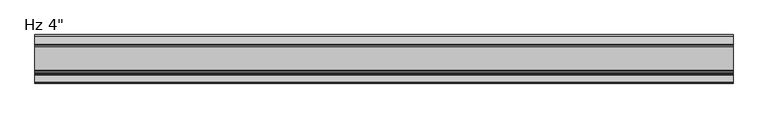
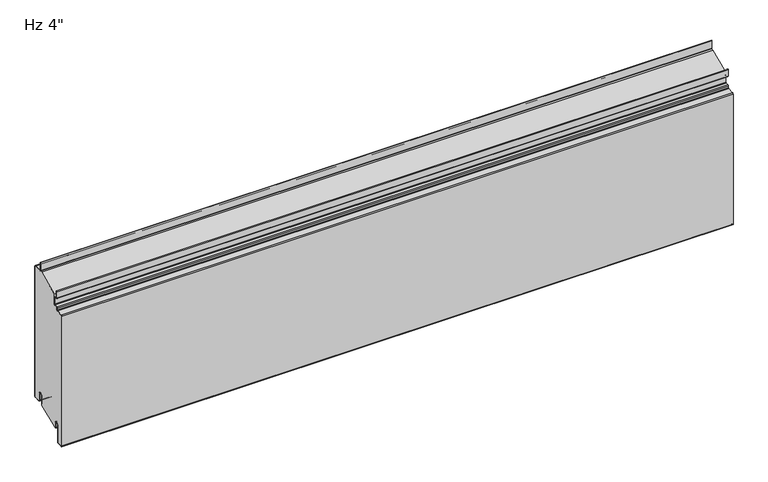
"""IFC4 building model written with IfcOpenShell, lengths in millimetres: plate geometry."""

from ifc_helpers import new_model, si_unit, point, frame, frame_2d, origin, place, context, project, spatial, polyline, circle_curve, ellipse_curve, trimmed, segment, composite_curve, outline, extrude, source, transform, mapped, element, save
from ifc_brep_helpers import plane_surface, cylinder_surface, revolved_surface, extruded_surface, advanced_brep


def plate_a1647500(model_context):
    return source(origin(), model_context, "Body", "SolidModel", [
        extrude(outline(composite_curve([segment(trimmed(circle_curve(frame_2d((-21.43125, 19.05)), 4.96875), [point((-16.4625, 19.05))], [point((-26.4, 19.05))], True, "CARTESIAN"), True, "CONTINUOUS"), segment(polyline([(-26.4, 19.05), (-26.4, -3.1323422), (-74.6157227, -23.01875), (-76.2, -23.01875), (-76.2, -13.5080174), (-76.99375, -13.5080174), (-76.7875, -11.9205174)]), True, "CONTINUOUS"), segment(trimmed(circle_curve(frame_2d((-81.75625, -11.9205174)), 4.96875), [point((-76.7875, -11.9205174))], [point((-86.725, -11.9205174))], True, "CARTESIAN"), True, "CONTINUOUS"), segment(polyline([(-86.725, -11.9205174), (-86.725, -50.1038221)]), True, "CONTINUOUS"), segment(trimmed(circle_curve(frame_2d((-88.10625, -50.1038221)), 1.38125), [point((-86.725, -50.1038221))], [point((-88.033961, -51.4831791))], False, "CARTESIAN"), True, "CONTINUOUS"), segment(polyline([(-88.033961, -51.4831791), (-99.146461, -52.0655606)]), True, "CONTINUOUS"), segment(trimmed(circle_curve(frame_2d((-99.21875, -50.6862035)), 1.38125), [point((-99.146461, -52.0655606))], [point((-100.6, -50.6862035))], False, "CARTESIAN"), True, "CONTINUOUS"), segment(polyline([(-100.6, -50.6862035), (-100.6, 247.7572607)]), True, "CONTINUOUS"), segment(trimmed(circle_curve(frame_2d((-99.21875, 247.7572607)), 1.38125), [point((-100.6, 247.7572607))], [point((-99.291039, 249.1366177))], False, "CARTESIAN"), True, "CONTINUOUS"), segment(polyline([(-99.291039, 249.1366177), (-85.5895807, 249.8546807)]), True, "CONTINUOUS"), segment(trimmed(circle_curve(frame_2d((-85.725, 252.4386347)), 2.5875), [point((-85.5895807, 249.8546807))], [point((-83.1375, 252.4386347))], True, "CARTESIAN"), True, "CONTINUOUS"), segment(polyline([(-83.1375, 252.4386347), (-83.1375, 255.4824411)]), True, "CONTINUOUS"), segment(trimmed(circle_curve(frame_2d((-81.75625, 255.4824411)), 1.38125), [point((-83.1375, 255.4824411))], [point((-81.828539, 256.8617981))], False, "CARTESIAN"), True, "CONTINUOUS"), segment(polyline([(-81.828539, 256.8617981), (-76.0645807, 257.1638744)]), True, "CONTINUOUS"), segment(trimmed(circle_curve(frame_2d((-76.2, 259.7478283)), 2.5875), [point((-76.0645807, 257.1638744))], [point((-73.6125, 259.7478283))], True, "CARTESIAN"), True, "CONTINUOUS"), segment(polyline([(-73.6125, 259.7478283), (-73.6125, 282.1892934), (-24.9057308, 303.00625), (-2.38125, 303.00625)]), True, "CONTINUOUS"), segment(trimmed(circle_curve(frame_2d((-2.38125, 301.625)), 1.38125), [point((-2.38125, 303.00625))], [point((-1.0, 301.625))], False, "CARTESIAN"), True, "CONTINUOUS"), segment(polyline([(-1.0, 301.625), (-1.0, 3.175)]), True, "CONTINUOUS"), segment(trimmed(circle_curve(frame_2d((-2.38125, 3.175)), 1.38125), [point((-1.0, 3.175))], [point((-2.38125, 1.79375))], False, "CARTESIAN"), True, "CONTINUOUS"), segment(polyline([(-2.38125, 1.79375), (-15.08125, 1.79375)]), True, "CONTINUOUS"), segment(trimmed(circle_curve(frame_2d((-15.08125, 3.175)), 1.38125), [point((-15.08125, 1.79375))], [point((-16.4625, 3.175))], False, "CARTESIAN"), True, "CONTINUOUS"), segment(polyline([(-16.4625, 3.175), (-16.4625, 19.05)]), True, "CONTINUOUS")], self_intersect=False)), frame((-730.0, 0.0, 0.0), z_axis=(1.0, 0.0, 0.0), x_axis=(0.0, 1.0, 0.0)), (0.0, 0.0, 1.0), 1460.0),
        extrude(outline(composite_curve([segment(polyline([(-25.4, 0.79375), (-26.4, 0.79375), (-26.4, 19.05)]), True, "CONTINUOUS"), segment(trimmed(circle_curve(frame_2d((-21.43125, 19.05)), 4.96875), [point((-26.4, 19.05))], [point((-16.4625, 19.05))], False, "CARTESIAN"), True, "CONTINUOUS"), segment(polyline([(-16.4625, 19.05), (-16.4625, 3.175)]), True, "CONTINUOUS"), segment(trimmed(circle_curve(frame_2d((-15.08125, 3.175)), 1.38125), [point((-16.4625, 3.175))], [point((-15.08125, 1.79375))], True, "CARTESIAN"), True, "CONTINUOUS"), segment(polyline([(-15.08125, 1.79375), (-2.38125, 1.79375)]), True, "CONTINUOUS"), segment(trimmed(circle_curve(frame_2d((-2.38125, 3.175)), 1.38125), [point((-2.38125, 1.79375))], [point((-1.0, 3.175))], True, "CARTESIAN"), True, "CONTINUOUS"), segment(polyline([(-1.0, 3.175), (-1.0, 301.625)]), True, "CONTINUOUS"), segment(trimmed(circle_curve(frame_2d((-2.38125, 301.625)), 1.38125), [point((-1.0, 301.625))], [point((-2.38125, 303.00625))], True, "CARTESIAN"), True, "CONTINUOUS"), segment(polyline([(-2.38125, 303.00625), (-19.446875, 303.00625)]), True, "CONTINUOUS"), segment(trimmed(circle_curve(frame_2d((-19.446875, 305.59375)), 2.5875), [point((-19.446875, 303.00625))], [point((-22.034375, 305.59375))], False, "CARTESIAN"), True, "CONTINUOUS"), segment(polyline([(-22.034375, 305.59375), (-22.034375, 323.05625), (-21.034375, 323.05625), (-21.034375, 305.59375)]), True, "CONTINUOUS"), segment(trimmed(circle_curve(frame_2d((-19.446875, 305.59375)), 1.5875), [point((-21.034375, 305.59375))], [point((-19.446875, 304.00625))], True, "CARTESIAN"), True, "CONTINUOUS"), segment(polyline([(-19.446875, 304.00625), (-2.38125, 304.00625)]), True, "CONTINUOUS"), segment(trimmed(circle_curve(frame_2d((-2.38125, 301.625)), 2.38125), [point((-2.38125, 304.00625))], [point((0.0, 301.625))], False, "CARTESIAN"), True, "CONTINUOUS"), segment(polyline([(0.0, 301.625), (0.0, 3.175)]), True, "CONTINUOUS"), segment(trimmed(circle_curve(frame_2d((-2.38125, 3.175)), 2.38125), [point((0.0, 3.175))], [point((-2.38125, 0.79375))], False, "CARTESIAN"), True, "CONTINUOUS"), segment(polyline([(-2.38125, 0.79375), (-15.08125, 0.79375)]), True, "CONTINUOUS"), segment(trimmed(circle_curve(frame_2d((-15.08125, 3.175)), 2.38125), [point((-15.08125, 0.79375))], [point((-17.4625, 3.175))], False, "CARTESIAN"), True, "CONTINUOUS"), segment(polyline([(-17.4625, 3.175), (-17.4625, 19.05)]), True, "CONTINUOUS"), segment(trimmed(circle_curve(frame_2d((-21.43125, 19.05)), 3.96875), [point((-17.4625, 19.05))], [point((-25.4, 19.05))], True, "CARTESIAN"), True, "CONTINUOUS"), segment(polyline([(-25.4, 19.05), (-25.4, 0.79375)]), True, "CONTINUOUS")], self_intersect=False)), frame((-730.0, 0.0, 0.0), z_axis=(1.0, 0.0, 0.0), x_axis=(0.0, 1.0, 0.0)), (0.0, 0.0, 1.0), 1460.0),
        advanced_brep(
        [(-730.0, -76.2, -23.2314549), (-730.0, -77.7875, -23.2314549), (-730.0, -77.7875, -11.9205174), (-730.0, -85.725, -11.9205174), (-730.0, -85.725, -50.1038221), (-730.0, -87.981625, -52.4818086), (-730.0, -99.094125, -53.0641901), (-730.0, -101.6, -50.6862035), (-730.0, -101.6, 247.7572607), (-730.0, -99.343375, 250.1352473), (-730.0, -85.6419167, 250.8533103), (-730.0, -84.1375, 252.4386347), (-730.0, -84.1375, 255.4824411), (-730.0, -81.880875, 257.8604276), (-730.0, -76.1169167, 258.1625039), (-730.0, -74.6125, 259.7478283), (-730.0, -74.6125, 274.6232326), (-730.0, -76.2, 276.2107326), (-730.0, -80.3671875, 276.2107326), (-730.0, -82.7484375, 278.5919826), (-730.0, -82.7484375, 293.0836032), (-730.0, -80.9546875, 293.0836032), (-730.0, -80.9546875, 283.3544826), (-730.0, -81.7484375, 283.3544826), (-730.0, -81.7484375, 278.5919826), (-730.0, -80.3671875, 277.2107326), (-730.0, -76.2, 277.2107326), (-730.0, -73.6125, 274.6232326), (-730.0, -73.6125, 259.7478283), (-730.0, -76.0645807, 257.1638744), (-730.0, -81.828539, 256.8617981), (-730.0, -83.1375, 255.4824411), (-730.0, -83.1375, 252.4386347), (-730.0, -85.5895807, 249.8546807), (-730.0, -99.291039, 249.1366177), (-730.0, -100.6, 247.7572607), (-730.0, -100.6, -50.6862035), (-730.0, -99.146461, -52.0655606), (-730.0, -88.033961, -51.4831791), (-730.0, -86.725, -50.1038221), (-730.0, -86.725, -11.9205174), (-730.0, -76.7875, -11.9205174), (-730.0, -76.99375, -13.5080174), (-730.0, -76.2, -13.5080174), (730.0, -76.2, -23.2314549), (730.0, -76.2, -13.5080174), (730.0, -76.99375, -13.5080174), (730.0, -76.7875, -11.9205174), (730.0, -86.725, -11.9205174), (730.0, -86.725, -50.1038221), (730.0, -88.033961, -51.4831791), (730.0, -99.146461, -52.0655606), (730.0, -100.6, -50.6862035), (730.0, -100.6, 247.7572607), (730.0, -99.291039, 249.1366177), (730.0, -85.5895807, 249.8546807), (730.0, -83.1375, 252.4386347), (730.0, -83.1375, 255.4824411), (730.0, -81.828539, 256.8617981), (730.0, -76.0645807, 257.1638744), (730.0, -73.6125, 259.7478283), (730.0, -73.6125, 274.6232326), (730.0, -76.2, 277.2107326), (730.0, -80.3671875, 277.2107326), (730.0, -81.7484375, 278.5919826), (730.0, -81.7484375, 283.3544826), (730.0, -80.9546875, 283.3544826), (730.0, -80.9546875, 293.0836032), (730.0, -82.7484375, 293.0836032), (730.0, -82.7484375, 278.5919826), (730.0, -80.3671875, 276.2107326), (730.0, -76.2, 276.2107326), (730.0, -74.6125, 274.6232326), (730.0, -74.6125, 259.7478283), (730.0, -76.1169167, 258.1625039), (730.0, -81.880875, 257.8604276), (730.0, -84.1375, 255.4824411), (730.0, -84.1375, 252.4386347), (730.0, -85.6419167, 250.8533103), (730.0, -99.343375, 250.1352473), (730.0, -101.6, 247.7572607), (730.0, -101.6, -50.6862035), (730.0, -99.094125, -53.0641901), (730.0, -87.981625, -52.4818086), (730.0, -85.725, -50.1038221), (730.0, -85.725, -11.9205174), (730.0, -77.7875, -11.9205174), (730.0, -77.7875, -23.2314549)],
        [
            (0, 1, circle_curve(frame((-730.0, -76.99375, -23.2314549), z_axis=(-1.0, 0.0, 0.0), x_axis=(0.0, 0.0, -1.0)), 0.79375)),
            (1, 2),
            (2, 3, circle_curve(frame((-730.0, -81.75625, -11.9205174), z_axis=(1.0, 0.0, 0.0), x_axis=(0.0, 0.0, -1.0)), 3.96875)),
            (3, 4),
            (4, 5, circle_curve(frame((-730.0, -88.10625, -50.1038221), z_axis=(-1.0, 0.0, 0.0), x_axis=(0.0, 0.0, -1.0)), 2.38125)),
            (5, 6),
            (6, 7, circle_curve(frame((-730.0, -99.21875, -50.6862035), z_axis=(-1.0, 0.0, 0.0), x_axis=(0.0, 0.0, -1.0)), 2.38125)),
            (7, 8),
            (8, 9, circle_curve(frame((-730.0, -99.21875, 247.7572607), z_axis=(-1.0, 0.0, 0.0), x_axis=(0.0, 0.0, -1.0)), 2.38125)),
            (9, 10),
            (10, 11, circle_curve(frame((-730.0, -85.725, 252.4386347), z_axis=(1.0, 0.0, 0.0), x_axis=(0.0, 0.0, -1.0)), 1.5875)),
            (11, 12),
            (12, 13, circle_curve(frame((-730.0, -81.75625, 255.4824411), z_axis=(-1.0, 0.0, 0.0), x_axis=(0.0, 0.0, -1.0)), 2.38125)),
            (13, 14),
            (14, 15, circle_curve(frame((-730.0, -76.2, 259.7478283), z_axis=(1.0, 0.0, 0.0), x_axis=(0.0, 0.0, -1.0)), 1.5875)),
            (15, 16),
            (16, 17, circle_curve(frame((-730.0, -76.2, 274.6232326), z_axis=(1.0, 0.0, 0.0), x_axis=(0.0, 0.0, -1.0)), 1.5875)),
            (17, 18),
            (18, 19, circle_curve(frame((-730.0, -80.3671875, 278.5919826), z_axis=(-1.0, 0.0, 0.0), x_axis=(0.0, 0.0, -1.0)), 2.38125)),
            (19, 20),
            (20, 21, ellipse_curve(frame((-730.0, -81.8515625, 293.0836032), z_axis=(-1.0, 0.0, 0.0), x_axis=(0.0, 1.0, 0.0)), 0.896875, 0.7852275)),
            (21, 22),
            (22, 23),
            (23, 24),
            (24, 25, circle_curve(frame((-730.0, -80.3671875, 278.5919826), z_axis=(1.0, 0.0, 0.0), x_axis=(0.0, 0.0, -1.0)), 1.38125)),
            (25, 26),
            (26, 27, circle_curve(frame((-730.0, -76.2, 274.6232326), z_axis=(-1.0, 0.0, 0.0), x_axis=(0.0, 0.0, -1.0)), 2.5875)),
            (27, 28),
            (28, 29, circle_curve(frame((-730.0, -76.2, 259.7478283), z_axis=(-1.0, 0.0, 0.0), x_axis=(0.0, 0.0, -1.0)), 2.5875)),
            (29, 30),
            (30, 31, circle_curve(frame((-730.0, -81.75625, 255.4824411), z_axis=(1.0, 0.0, 0.0), x_axis=(0.0, 0.0, -1.0)), 1.38125)),
            (31, 32),
            (32, 33, circle_curve(frame((-730.0, -85.725, 252.4386347), z_axis=(-1.0, 0.0, 0.0), x_axis=(0.0, 0.0, -1.0)), 2.5875)),
            (33, 34),
            (34, 35, circle_curve(frame((-730.0, -99.21875, 247.7572607), z_axis=(1.0, 0.0, 0.0), x_axis=(0.0, 0.0, -1.0)), 1.38125)),
            (35, 36),
            (36, 37, circle_curve(frame((-730.0, -99.21875, -50.6862035), z_axis=(1.0, 0.0, 0.0), x_axis=(0.0, 0.0, -1.0)), 1.38125)),
            (37, 38),
            (38, 39, circle_curve(frame((-730.0, -88.10625, -50.1038221), z_axis=(1.0, 0.0, 0.0), x_axis=(0.0, 0.0, -1.0)), 1.38125)),
            (39, 40),
            (40, 41, circle_curve(frame((-730.0, -81.75625, -11.9205174), z_axis=(-1.0, 0.0, 0.0), x_axis=(0.0, 0.0, -1.0)), 4.96875)),
            (41, 42),
            (42, 43),
            (43, 0),
            (44, 45),
            (45, 46),
            (46, 47),
            (47, 48, circle_curve(frame((730.0, -81.75625, -11.9205174), z_axis=(1.0, 0.0, 0.0), x_axis=(0.0, 0.0, -1.0)), 4.96875)),
            (48, 49),
            (49, 50, circle_curve(frame((730.0, -88.10625, -50.1038221), z_axis=(-1.0, 0.0, 0.0), x_axis=(0.0, 0.0, -1.0)), 1.38125)),
            (50, 51),
            (51, 52, circle_curve(frame((730.0, -99.21875, -50.6862035), z_axis=(-1.0, 0.0, 0.0), x_axis=(0.0, 0.0, -1.0)), 1.38125)),
            (52, 53),
            (53, 54, circle_curve(frame((730.0, -99.21875, 247.7572607), z_axis=(-1.0, 0.0, 0.0), x_axis=(0.0, 0.0, -1.0)), 1.38125)),
            (54, 55),
            (55, 56, circle_curve(frame((730.0, -85.725, 252.4386347), z_axis=(1.0, 0.0, 0.0), x_axis=(0.0, 0.0, -1.0)), 2.5875)),
            (56, 57),
            (57, 58, circle_curve(frame((730.0, -81.75625, 255.4824411), z_axis=(-1.0, 0.0, 0.0), x_axis=(0.0, 0.0, -1.0)), 1.38125)),
            (58, 59),
            (59, 60, circle_curve(frame((730.0, -76.2, 259.7478283), z_axis=(1.0, 0.0, 0.0), x_axis=(0.0, 0.0, -1.0)), 2.5875)),
            (60, 61),
            (61, 62, circle_curve(frame((730.0, -76.2, 274.6232326), z_axis=(1.0, 0.0, 0.0), x_axis=(0.0, 0.0, -1.0)), 2.5875)),
            (62, 63),
            (63, 64, circle_curve(frame((730.0, -80.3671875, 278.5919826), z_axis=(-1.0, 0.0, 0.0), x_axis=(0.0, 0.0, -1.0)), 1.38125)),
            (64, 65),
            (65, 66),
            (66, 67),
            (67, 68, ellipse_curve(frame((730.0, -81.8515625, 293.0836032), z_axis=(1.0, 0.0, 0.0), x_axis=(0.0, 1.0, 0.0)), 0.896875, 0.7852275)),
            (68, 69),
            (69, 70, circle_curve(frame((730.0, -80.3671875, 278.5919826), z_axis=(1.0, 0.0, 0.0), x_axis=(0.0, 0.0, -1.0)), 2.38125)),
            (70, 71),
            (71, 72, circle_curve(frame((730.0, -76.2, 274.6232326), z_axis=(-1.0, 0.0, 0.0), x_axis=(0.0, 0.0, -1.0)), 1.5875)),
            (72, 73),
            (73, 74, circle_curve(frame((730.0, -76.2, 259.7478283), z_axis=(-1.0, 0.0, 0.0), x_axis=(0.0, 0.0, -1.0)), 1.5875)),
            (74, 75),
            (75, 76, circle_curve(frame((730.0, -81.75625, 255.4824411), z_axis=(1.0, 0.0, 0.0), x_axis=(0.0, 0.0, -1.0)), 2.38125)),
            (76, 77),
            (77, 78, circle_curve(frame((730.0, -85.725, 252.4386347), z_axis=(-1.0, 0.0, 0.0), x_axis=(0.0, 0.0, -1.0)), 1.5875)),
            (78, 79),
            (79, 80, circle_curve(frame((730.0, -99.21875, 247.7572607), z_axis=(1.0, 0.0, 0.0), x_axis=(0.0, 0.0, -1.0)), 2.38125)),
            (80, 81),
            (81, 82, circle_curve(frame((730.0, -99.21875, -50.6862035), z_axis=(1.0, 0.0, 0.0), x_axis=(0.0, 0.0, -1.0)), 2.38125)),
            (82, 83),
            (83, 84, circle_curve(frame((730.0, -88.10625, -50.1038221), z_axis=(1.0, 0.0, 0.0), x_axis=(0.0, 0.0, -1.0)), 2.38125)),
            (84, 85),
            (85, 86, circle_curve(frame((730.0, -81.75625, -11.9205174), z_axis=(-1.0, 0.0, 0.0), x_axis=(0.0, 0.0, -1.0)), 3.96875)),
            (86, 87),
            (87, 44, circle_curve(frame((730.0, -76.99375, -23.2314549), z_axis=(1.0, 0.0, 0.0), x_axis=(0.0, 0.0, -1.0)), 0.79375)),
            (36, 52),
            (51, 37),
            (50, 38),
            (49, 39),
            (48, 40),
            (47, 41),
            (42, 46),
            (45, 43),
            (22, 66),
            (65, 23),
            (21, 67),
            (20, 68),
            (34, 54),
            (53, 35),
            (32, 56),
            (55, 33),
            (30, 58),
            (57, 31),
            (28, 60),
            (59, 29),
            (24, 64),
            (63, 25),
            (26, 62),
            (61, 27),
            (19, 69),
            (17, 71),
            (70, 18),
            (15, 73),
            (72, 16),
            (13, 75),
            (74, 14),
            (11, 77),
            (76, 12),
            (9, 79),
            (78, 10),
            (7, 81),
            (80, 8),
            (5, 83),
            (82, 6),
            (3, 85),
            (84, 4),
            (1, 87),
            (86, 2),
            (44, 0),
        ],
        [
            plane_surface(frame((-730.0, -101.6, 152.4), z_axis=(-1.0, 0.0, 0.0), x_axis=(0.0, -1.0, 0.0))),
            plane_surface(frame((730.0, -101.6, 152.4), z_axis=(1.0, 0.0, 0.0), x_axis=(0.0, -1.0, 0.0))),
            revolved_surface(polyline([(730.0, -99.21875, -52.0674535), (-730.0, -99.21875, -52.0674535)]), (-730.0, -99.21875, -50.6862035), (1.0, 0.0, 0.0)),
            plane_surface(frame((-730.0, -88.033961, -51.4831791), z_axis=(0.0, -0.05233595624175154, 0.9986295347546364), x_axis=(1.0, 0.0, 0.0))),
            revolved_surface(polyline([(730.0, -88.10625, -51.485072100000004), (-730.0, -88.10625, -51.485072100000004)]), (-730.0, -88.10625, -50.1038221), (1.0, 0.0, 0.0)),
            plane_surface(frame((-730.0, -86.725, -11.9205174), z_axis=(0.0, -1.0, 0.0), x_axis=(1.0, 0.0, 0.0))),
            cylinder_surface(frame((-730.0, -81.75625, -11.9205174), z_axis=(-1.0, 0.0, 0.0), x_axis=(0.0, 0.0, -1.0)), 4.96875),
            plane_surface(frame((-730.0, -76.2, -13.5080174), z_axis=(0.0, 0.0, 1.0), x_axis=(1.0, 0.0, 0.0))),
            plane_surface(frame((-730.0, -76.99375, -13.5080174), z_axis=(0.0, 0.9916655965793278, -0.12883844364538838), x_axis=(1.0, 0.0, 0.0))),
            plane_surface(frame((-730.0, -81.7484375, 283.3544826), z_axis=(0.0, 0.0, -1.0), x_axis=(1.0, 0.0, 0.0))),
            plane_surface(frame((-730.0, -80.9546875, 283.3544826), z_axis=(0.0, 1.0, 0.0), x_axis=(1.0, 0.0, 0.0))),
            extruded_surface(trimmed(ellipse_curve(frame((-730.0, -81.8515625, 293.0836032), z_axis=(1.0, 0.0, 0.0), x_axis=(0.0, 1.0, 0.0)), 0.896875, 0.7852275), [point((-730.0, -80.9546875, 293.0836032))], [point((-730.0, -82.7484375, 293.0836032))], True, "CARTESIAN"), (1460.0, 0.0, 0.0), 1460.0),
            revolved_surface(polyline([(730.0, -99.21875, 246.3760107), (-730.0, -99.21875, 246.3760107)]), (-730.0, -99.21875, 247.7572607), (1.0, 0.0, 0.0)),
            cylinder_surface(frame((-730.0, -85.725, 252.4386347), z_axis=(-1.0, 0.0, 0.0), x_axis=(0.0, 0.0, -1.0)), 2.5875),
            plane_surface(frame((-730.0, -99.291039, 249.1366177), z_axis=(0.0, 0.05233595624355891, -0.9986295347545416), x_axis=(1.0, 0.0, 0.0))),
            plane_surface(frame((-730.0, -100.6, -50.6862035), z_axis=(0.0, 1.0, 0.0), x_axis=(1.0, 0.0, 0.0))),
            revolved_surface(polyline([(730.0, -81.75625, 254.1011911), (-730.0, -81.75625, 254.1011911)]), (-730.0, -81.75625, 255.4824411), (1.0, 0.0, 0.0)),
            cylinder_surface(frame((-730.0, -76.2, 259.7478283), z_axis=(-1.0, 0.0, 0.0), x_axis=(0.0, 0.0, -1.0)), 2.5875),
            plane_surface(frame((-730.0, -81.828539, 256.8617981), z_axis=(0.0, 0.052335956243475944, -0.9986295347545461), x_axis=(1.0, 0.0, 0.0))),
            plane_surface(frame((-730.0, -83.1375, 252.4386347), z_axis=(0.0, 1.0, 0.0), x_axis=(1.0, 0.0, 0.0))),
            revolved_surface(polyline([(730.0, -80.3671875, 277.2107326), (-730.0, -80.3671875, 277.2107326)]), (-730.0, -80.3671875, 278.5919826), (1.0, 0.0, 0.0)),
            cylinder_surface(frame((-730.0, -76.2, 274.6232326), z_axis=(-1.0, 0.0, 0.0), x_axis=(0.0, 0.0, -1.0)), 2.5875),
            plane_surface(frame((-730.0, -76.2, 277.2107326), z_axis=(0.0, 0.0, 1.0), x_axis=(1.0, 0.0, 0.0))),
            plane_surface(frame((-730.0, -81.7484375, 278.5919826), z_axis=(0.0, 1.0, 0.0), x_axis=(1.0, 0.0, 0.0))),
            plane_surface(frame((-730.0, -82.7484375, 293.0836032), z_axis=(0.0, -1.0, 0.0), x_axis=(1.0, 0.0, 0.0))),
            plane_surface(frame((-730.0, -80.3671875, 276.2107326), z_axis=(0.0, 0.0, -1.0), x_axis=(1.0, 0.0, 0.0))),
            cylinder_surface(frame((-730.0, -80.3671875, 278.5919826), z_axis=(-1.0, 0.0, 0.0), x_axis=(0.0, 0.0, -1.0)), 2.38125),
            plane_surface(frame((-730.0, -73.6125, 259.7478283), z_axis=(0.0, 1.0, 0.0), x_axis=(1.0, 0.0, 0.0))),
            plane_surface(frame((-730.0, -74.6125, 274.6232326), z_axis=(0.0, -1.0, 0.0), x_axis=(1.0, 0.0, 0.0))),
            plane_surface(frame((-730.0, -76.1169167, 258.1625039), z_axis=(0.0, -0.05233595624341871, 0.9986295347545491), x_axis=(1.0, 0.0, 0.0))),
            revolved_surface(polyline([(730.0, -76.2, 258.1603283), (-730.0, -76.2, 258.1603283)]), (-730.0, -76.2, 259.7478283), (1.0, 0.0, 0.0)),
            revolved_surface(polyline([(730.0, -76.2, 273.0357326), (-730.0, -76.2, 273.0357326)]), (-730.0, -76.2, 274.6232326), (1.0, 0.0, 0.0)),
            plane_surface(frame((-730.0, -84.1375, 255.4824411), z_axis=(0.0, -1.0, 0.0), x_axis=(1.0, 0.0, 0.0))),
            plane_surface(frame((-730.0, -85.6419167, 250.8533103), z_axis=(0.0, -0.05233595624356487, 0.9986295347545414), x_axis=(1.0, 0.0, 0.0))),
            revolved_surface(polyline([(730.0, -85.725, 250.8511347), (-730.0, -85.725, 250.8511347)]), (-730.0, -85.725, 252.4386347), (1.0, 0.0, 0.0)),
            cylinder_surface(frame((-730.0, -81.75625, 255.4824411), z_axis=(-1.0, 0.0, 0.0), x_axis=(0.0, 0.0, -1.0)), 2.38125),
            plane_surface(frame((-730.0, -101.6, 247.7572607), z_axis=(0.0, -1.0, 0.0), x_axis=(1.0, 0.0, 0.0))),
            plane_surface(frame((-730.0, -99.094125, -53.0641901), z_axis=(0.0, 0.05233595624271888, -0.9986295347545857), x_axis=(1.0, 0.0, 0.0))),
            cylinder_surface(frame((-730.0, -99.21875, -50.6862035), z_axis=(-1.0, 0.0, 0.0), x_axis=(0.0, 0.0, -1.0)), 2.38125),
            cylinder_surface(frame((-730.0, -99.21875, 247.7572607), z_axis=(-1.0, 0.0, 0.0), x_axis=(0.0, 0.0, -1.0)), 2.38125),
            plane_surface(frame((-730.0, -85.725, -50.1038221), z_axis=(0.0, 1.0, 0.0), x_axis=(1.0, 0.0, 0.0))),
            plane_surface(frame((-730.0, -77.7875, -11.9205174), z_axis=(0.0, -1.0, 0.0), x_axis=(1.0, 0.0, 0.0))),
            revolved_surface(polyline([(730.0, -81.75625, -15.8892674), (-730.0, -81.75625, -15.8892674)]), (-730.0, -81.75625, -11.9205174), (1.0, 0.0, 0.0)),
            cylinder_surface(frame((-730.0, -88.10625, -50.1038221), z_axis=(-1.0, 0.0, 0.0), x_axis=(0.0, 0.0, -1.0)), 2.38125),
            plane_surface(frame((-730.0, -76.2, -23.2314549), z_axis=(0.0, 1.0, 0.0), x_axis=(1.0, 0.0, 0.0))),
            cylinder_surface(frame((-730.0, -76.99375, -23.2314549), z_axis=(-1.0, 0.0, 0.0), x_axis=(0.0, 0.0, -1.0)), 0.79375),
        ],
        [
            (0, [[1, 2, 3, 4, 5, 6, 7, 8, 9, 10, 11, 12, 13, 14, 15, 16, 17, 18, 19, 20, 21, 22, 23, 24, 25, 26, 27, 28, 29, 30, 31, 32, 33, 34, 35, 36, 37, 38, 39, 40, 41, 42, 43, 44]]),
            (1, [[45, 46, 47, 48, 49, 50, 51, 52, 53, 54, 55, 56, 57, 58, 59, 60, 61, 62, 63, 64, 65, 66, 67, 68, 69, 70, 71, 72, 73, 74, 75, 76, 77, 78, 79, 80, 81, 82, 83, 84, 85, 86, 87, 88]]),
            (2, [[89, -52, 90, -37]]),
            (3, [[-90, -51, 91, -38]]),
            (4, [[-91, -50, 92, -39]]),
            (5, [[-92, -49, 93, -40]]),
            (6, [[-93, -48, 94, -41]]),
            (7, [[95, -46, 96, -43]]),
            (8, [[-94, -47, -95, -42]]),
            (9, [[97, -66, 98, -23]]),
            (10, [[99, -67, -97, -22]]),
            (11, [[100, -68, -99, -21]]),
            (12, [[101, -54, 102, -35]]),
            (13, [[103, -56, 104, -33]]),
            (14, [[-104, -55, -101, -34]]),
            (15, [[-102, -53, -89, -36]]),
            (16, [[105, -58, 106, -31]]),
            (17, [[107, -60, 108, -29]]),
            (18, [[-108, -59, -105, -30]]),
            (19, [[-106, -57, -103, -32]]),
            (20, [[109, -64, 110, -25]]),
            (21, [[111, -62, 112, -27]]),
            (22, [[-110, -63, -111, -26]]),
            (23, [[-98, -65, -109, -24]]),
            (24, [[113, -69, -100, -20]]),
            (25, [[114, -71, 115, -18]]),
            (26, [[-115, -70, -113, -19]]),
            (27, [[-112, -61, -107, -28]]),
            (28, [[116, -73, 117, -16]]),
            (29, [[118, -75, 119, -14]]),
            (30, [[-119, -74, -116, -15]]),
            (31, [[-117, -72, -114, -17]]),
            (32, [[120, -77, 121, -12]]),
            (33, [[122, -79, 123, -10]]),
            (34, [[-123, -78, -120, -11]]),
            (35, [[-121, -76, -118, -13]]),
            (36, [[124, -81, 125, -8]]),
            (37, [[126, -83, 127, -6]]),
            (38, [[-127, -82, -124, -7]]),
            (39, [[-125, -80, -122, -9]]),
            (40, [[128, -85, 129, -4]]),
            (41, [[130, -87, 131, -2]]),
            (42, [[-131, -86, -128, -3]]),
            (43, [[-129, -84, -126, -5]]),
            (44, [[-96, -45, 132, -44]]),
            (45, [[-132, -88, -130, -1]]),
        ],
    ),
    ])


if __name__ == "__main__":
    model = new_model("IFC4")
    model_context = context("Model", 3, world=origin())
    ifc_project = project(units=[si_unit("LENGTHUNIT", "METRE", prefix="MILLI")], contexts=[model_context])
    site = spatial("IfcSite", under=ifc_project)
    building = spatial("IfcBuilding", under=site)
    placement = place(None, origin())
    plate_shape = plate_a1647500(model_context)
    element("IfcPlate", 1, ObjectType="KIP-12-DWTR-R19-CP-Hz-F : Hz 4\"", at=placement, inside=building, context=model_context, shape_type="MappedRepresentation", body=[
        mapped(plate_shape, transform((0.0, 0.0, 0.0), x_axis=(1.0, 0.0, 0.0), y_axis=(0.0, 1.0, 0.0), z_axis=(0.0, 0.0, 1.0))),
    ])
    save(model, "model.ifc")
